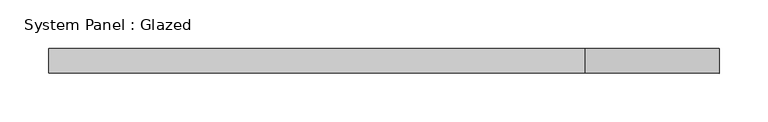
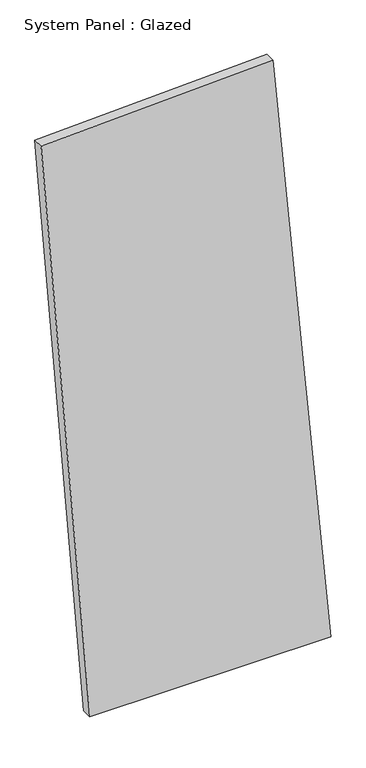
"""IFC4 building model written with IfcOpenShell, lengths in millimetres: plate geometry, System Panel : Glazed."""

from ifc_helpers import new_model, si_unit, frame, origin, place, context, project, spatial, polyline, outline, extrude, source, transform, mapped, element, save


def system_panel_glazed_8b9ca1c4(model_context):
    return source(origin(), model_context, "Body", "SweptSolid", [
        extrude(outline(polyline([(0.0, -228.9387486), (0.0, 345.0046899), (1497.0838132, 207.0759482), (1474.383854, -345.0046899), (0.0, -228.9387486)])), frame((0.0, -44.45, 0.0), z_axis=(0.0, 1.0, 0.0), x_axis=(0.0, 0.0, 1.0)), (0.0, 0.0, 1.0), 25.4),
    ])


if __name__ == "__main__":
    model = new_model("IFC4")
    model_context = context("Model", 3, world=origin())
    ifc_project = project(units=[si_unit("LENGTHUNIT", "METRE", prefix="MILLI")], contexts=[model_context])
    site = spatial("IfcSite", under=ifc_project)
    building = spatial("IfcBuilding", under=site)
    placement = place(None, origin())
    system_panel_glazed_shape = system_panel_glazed_8b9ca1c4(model_context)
    element("IfcPlate", 1, ObjectType="System Panel : Glazed", at=placement, inside=building, context=model_context, shape_type="MappedRepresentation", body=[
        mapped(system_panel_glazed_shape, transform((0.0, 0.0, 0.0), x_axis=(1.0, 0.0, 0.0), y_axis=(0.0, 1.0, 0.0), z_axis=(0.0, 0.0, 1.0))),
    ])
    save(model, "model.ifc")
